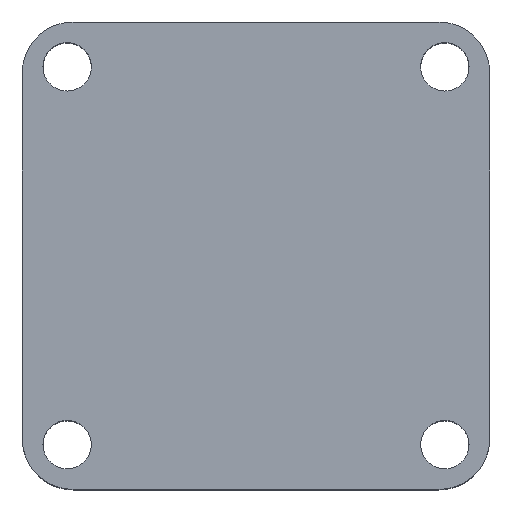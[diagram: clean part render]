
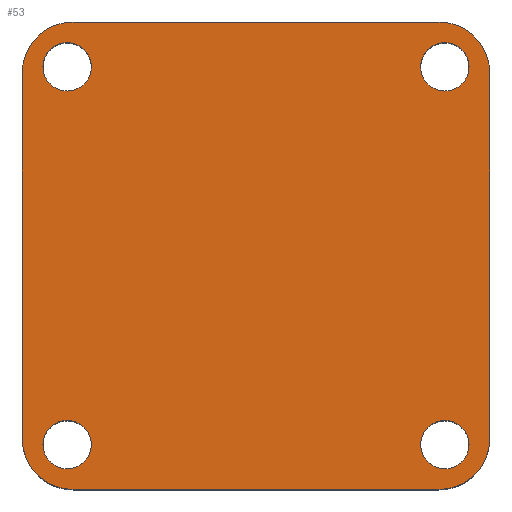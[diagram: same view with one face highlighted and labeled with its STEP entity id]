
A CAD part, top view. The second image highlights one B-rep face of the part: STEP entity #53.
In plain terms, the highlighted planar face has unit normal (0, 0, 1).
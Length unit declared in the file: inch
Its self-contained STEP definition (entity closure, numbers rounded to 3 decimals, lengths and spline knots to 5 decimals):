
#1 = CIRCLE ( 'NONE', #384, 0.16929 ) ;
#2 = CARTESIAN_POINT ( 'NONE',  ( 26.95554, 34.62944, 0. ) ) ;
#3 = AXIS2_PLACEMENT_3D ( 'NONE', #622, #211, #626 ) ;
#14 = CIRCLE ( 'NONE', #3, 0.08071 ) ;
#19 = LINE ( 'NONE', #348, #441 ) ;
#27 = ORIENTED_EDGE ( 'NONE', *, *, #254, .T. ) ;
#32 = EDGE_LOOP ( 'NONE', ( #565, #144 ) ) ;
#35 = DIRECTION ( 'NONE',  ( 0., 0., 1. ) ) ;
#41 = ORIENTED_EDGE ( 'NONE', *, *, #164, .F. ) ;
#45 = CARTESIAN_POINT ( 'NONE',  ( 27.12483, 0., 0. ) ) ;
#47 = CIRCLE ( 'NONE', #409, 0.08071 ) ;
#51 = EDGE_CURVE ( 'NONE', #186, #132, #250, .T. ) ;
#53 = ADVANCED_FACE ( 'NONE', ( #385, #380, #277, #184, #553 ), #77, .T. ) ;
#55 = VECTOR ( 'NONE', #551, 39.37008 ) ;
#64 = VERTEX_POINT ( 'NONE', #595 ) ;
#65 = DIRECTION ( 'NONE',  ( 1., 0., 0. ) ) ;
#72 = CARTESIAN_POINT ( 'NONE',  ( 0., 34.79873, 0. ) ) ;
#77 = PLANE ( 'NONE',  #288 ) ;
#82 = CARTESIAN_POINT ( 'NONE',  ( 0., 0., 0. ) ) ;
#86 = AXIS2_PLACEMENT_3D ( 'NONE', #531, #212, #314 ) ;
#88 = CARTESIAN_POINT ( 'NONE',  ( 27.12483, 33.40896, 0. ) ) ;
#91 = DIRECTION ( 'NONE',  ( 0., -1., 0. ) ) ;
#92 = EDGE_CURVE ( 'NONE', #450, #64, #320, .T. ) ;
#93 = EDGE_LOOP ( 'NONE', ( #499, #195 ) ) ;
#98 = CARTESIAN_POINT ( 'NONE',  ( 26.95554, 33.23967, 0. ) ) ;
#106 = DIRECTION ( 'NONE',  ( 0., 0., 1. ) ) ;
#117 = CARTESIAN_POINT ( 'NONE',  ( 25.71538, 34.64912, 0. ) ) ;
#132 = VERTEX_POINT ( 'NONE', #198 ) ;
#133 = DIRECTION ( 'NONE',  ( 1., 0., 0. ) ) ;
#137 = DIRECTION ( 'NONE',  ( 1., 0., 0. ) ) ;
#138 = CIRCLE ( 'NONE', #625, 0.16929 ) ;
#144 = ORIENTED_EDGE ( 'NONE', *, *, #494, .F. ) ;
#145 = EDGE_CURVE ( 'NONE', #147, #224, #502, .T. ) ;
#147 = VERTEX_POINT ( 'NONE', #98 ) ;
#148 = CARTESIAN_POINT ( 'NONE',  ( 25.71538, 34.64912, 0. ) ) ;
#150 = DIRECTION ( 'NONE',  ( 0., 0., 1. ) ) ;
#156 = EDGE_CURVE ( 'NONE', #668, #658, #138, .T. ) ;
#157 = AXIS2_PLACEMENT_3D ( 'NONE', #260, #466, #474 ) ;
#164 = EDGE_CURVE ( 'NONE', #64, #450, #520, .T. ) ;
#166 = CARTESIAN_POINT ( 'NONE',  ( 27.12483, 34.62944, 0. ) ) ;
#174 = DIRECTION ( 'NONE',  ( 0., 0., 1. ) ) ;
#182 = AXIS2_PLACEMENT_3D ( 'NONE', #309, #307, #421 ) ;
#184 = FACE_BOUND ( 'NONE', #32, .T. ) ;
#185 = CARTESIAN_POINT ( 'NONE',  ( 25.73507, 34.79873, 0. ) ) ;
#186 = VERTEX_POINT ( 'NONE', #456 ) ;
#188 = EDGE_LOOP ( 'NONE', ( #232, #234, #518, #495, #305, #346, #27, #251 ) ) ;
#190 = ORIENTED_EDGE ( 'NONE', *, *, #92, .F. ) ;
#193 = VERTEX_POINT ( 'NONE', #400 ) ;
#195 = ORIENTED_EDGE ( 'NONE', *, *, #418, .F. ) ;
#198 = CARTESIAN_POINT ( 'NONE',  ( 26.89452, 34.64912, 0. ) ) ;
#205 = AXIS2_PLACEMENT_3D ( 'NONE', #605, #150, #137 ) ;
#211 = DIRECTION ( 'NONE',  ( 0., 0., 1. ) ) ;
#212 = DIRECTION ( 'NONE',  ( 0., 0., 1. ) ) ;
#215 = DIRECTION ( 'NONE',  ( 0., 0., 1. ) ) ;
#216 = CARTESIAN_POINT ( 'NONE',  ( 25.63467, 33.38928, 0. ) ) ;
#224 = VERTEX_POINT ( 'NONE', #88 ) ;
#232 = ORIENTED_EDGE ( 'NONE', *, *, #613, .T. ) ;
#234 = ORIENTED_EDGE ( 'NONE', *, *, #145, .T. ) ;
#235 = CARTESIAN_POINT ( 'NONE',  ( 26.89452, 33.38928, 0. ) ) ;
#240 = LINE ( 'NONE', #72, #55 ) ;
#250 = CIRCLE ( 'NONE', #555, 0.08071 ) ;
#251 = ORIENTED_EDGE ( 'NONE', *, *, #351, .T. ) ;
#254 = EDGE_CURVE ( 'NONE', #658, #512, #19, .T. ) ;
#260 = CARTESIAN_POINT ( 'NONE',  ( 26.97522, 34.64912, 0. ) ) ;
#264 = LINE ( 'NONE', #45, #530 ) ;
#274 = CARTESIAN_POINT ( 'NONE',  ( 0., 33.23967, 0. ) ) ;
#277 = FACE_BOUND ( 'NONE', #328, .T. ) ;
#288 = AXIS2_PLACEMENT_3D ( 'NONE', #82, #599, #377 ) ;
#289 = AXIS2_PLACEMENT_3D ( 'NONE', #2, #215, #419 ) ;
#290 = DIRECTION ( 'NONE',  ( 0., 0., 1. ) ) ;
#291 = EDGE_LOOP ( 'NONE', ( #489, #451 ) ) ;
#305 = ORIENTED_EDGE ( 'NONE', *, *, #661, .T. ) ;
#307 = DIRECTION ( 'NONE',  ( 0., 0., 1. ) ) ;
#309 = CARTESIAN_POINT ( 'NONE',  ( 26.97522, 33.38928, 0. ) ) ;
#314 = DIRECTION ( 'NONE',  ( 1., 0., 0. ) ) ;
#320 = CIRCLE ( 'NONE', #408, 0.08071 ) ;
#326 = CARTESIAN_POINT ( 'NONE',  ( 25.71538, 33.38928, 0. ) ) ;
#328 = EDGE_LOOP ( 'NONE', ( #190, #41 ) ) ;
#341 = VERTEX_POINT ( 'NONE', #366 ) ;
#344 = CIRCLE ( 'NONE', #157, 0.08071 ) ;
#345 = DIRECTION ( 'NONE',  ( 1., 0., 0. ) ) ;
#346 = ORIENTED_EDGE ( 'NONE', *, *, #156, .T. ) ;
#348 = CARTESIAN_POINT ( 'NONE',  ( 25.56578, 0., 0. ) ) ;
#351 = EDGE_CURVE ( 'NONE', #512, #341, #1, .T. ) ;
#357 = DIRECTION ( 'NONE',  ( 0., 0., 1. ) ) ;
#363 = EDGE_CURVE ( 'NONE', #634, #448, #475, .T. ) ;
#366 = CARTESIAN_POINT ( 'NONE',  ( 25.73507, 33.23967, 0. ) ) ;
#368 = CARTESIAN_POINT ( 'NONE',  ( 25.56578, 33.40896, 0. ) ) ;
#377 = DIRECTION ( 'NONE',  ( 1., 0., 0. ) ) ;
#380 = FACE_BOUND ( 'NONE', #93, .T. ) ;
#384 = AXIS2_PLACEMENT_3D ( 'NONE', #463, #411, #528 ) ;
#385 = FACE_BOUND ( 'NONE', #291, .T. ) ;
#400 = CARTESIAN_POINT ( 'NONE',  ( 26.95554, 34.79873, 0. ) ) ;
#408 = AXIS2_PLACEMENT_3D ( 'NONE', #117, #290, #65 ) ;
#409 = AXIS2_PLACEMENT_3D ( 'NONE', #326, #106, #477 ) ;
#411 = DIRECTION ( 'NONE',  ( 0., 0., 1. ) ) ;
#412 = CARTESIAN_POINT ( 'NONE',  ( 25.79609, 34.64912, 0. ) ) ;
#415 = EDGE_CURVE ( 'NONE', #224, #508, #264, .T. ) ;
#418 = EDGE_CURVE ( 'NONE', #132, #186, #344, .T. ) ;
#419 = DIRECTION ( 'NONE',  ( 1., 0., 0. ) ) ;
#421 = DIRECTION ( 'NONE',  ( 1., 0., 0. ) ) ;
#422 = CARTESIAN_POINT ( 'NONE',  ( 27.05593, 33.38928, 0. ) ) ;
#425 = DIRECTION ( 'NONE',  ( 1., 0., 0. ) ) ;
#432 = EDGE_CURVE ( 'NONE', #604, #559, #14, .T. ) ;
#434 = LINE ( 'NONE', #274, #669 ) ;
#437 = EDGE_CURVE ( 'NONE', #508, #193, #514, .T. ) ;
#441 = VECTOR ( 'NONE', #91, 39.37008 ) ;
#448 = VERTEX_POINT ( 'NONE', #422 ) ;
#450 = VERTEX_POINT ( 'NONE', #412 ) ;
#451 = ORIENTED_EDGE ( 'NONE', *, *, #363, .F. ) ;
#456 = CARTESIAN_POINT ( 'NONE',  ( 27.05593, 34.64912, 0. ) ) ;
#463 = CARTESIAN_POINT ( 'NONE',  ( 25.73507, 33.40896, 0. ) ) ;
#464 = CIRCLE ( 'NONE', #86, 0.08071 ) ;
#466 = DIRECTION ( 'NONE',  ( 0., 0., 1. ) ) ;
#474 = DIRECTION ( 'NONE',  ( 1., 0., 0. ) ) ;
#475 = CIRCLE ( 'NONE', #182, 0.08071 ) ;
#477 = DIRECTION ( 'NONE',  ( 1., 0., 0. ) ) ;
#489 = ORIENTED_EDGE ( 'NONE', *, *, #569, .F. ) ;
#494 = EDGE_CURVE ( 'NONE', #559, #604, #47, .T. ) ;
#495 = ORIENTED_EDGE ( 'NONE', *, *, #437, .T. ) ;
#499 = ORIENTED_EDGE ( 'NONE', *, *, #51, .F. ) ;
#502 = CIRCLE ( 'NONE', #205, 0.16929 ) ;
#508 = VERTEX_POINT ( 'NONE', #166 ) ;
#512 = VERTEX_POINT ( 'NONE', #368 ) ;
#514 = CIRCLE ( 'NONE', #289, 0.16929 ) ;
#518 = ORIENTED_EDGE ( 'NONE', *, *, #415, .T. ) ;
#520 = CIRCLE ( 'NONE', #529, 0.08071 ) ;
#528 = DIRECTION ( 'NONE',  ( 1., 0., 0. ) ) ;
#529 = AXIS2_PLACEMENT_3D ( 'NONE', #148, #35, #564 ) ;
#530 = VECTOR ( 'NONE', #672, 39.37008 ) ;
#531 = CARTESIAN_POINT ( 'NONE',  ( 26.97522, 33.38928, 0. ) ) ;
#540 = CARTESIAN_POINT ( 'NONE',  ( 26.97522, 34.64912, 0. ) ) ;
#541 = CARTESIAN_POINT ( 'NONE',  ( 25.56578, 34.62944, 0. ) ) ;
#551 = DIRECTION ( 'NONE',  ( -1., 0., 0. ) ) ;
#553 = FACE_OUTER_BOUND ( 'NONE', #188, .T. ) ;
#555 = AXIS2_PLACEMENT_3D ( 'NONE', #540, #174, #425 ) ;
#559 = VERTEX_POINT ( 'NONE', #216 ) ;
#564 = DIRECTION ( 'NONE',  ( 1., 0., 0. ) ) ;
#565 = ORIENTED_EDGE ( 'NONE', *, *, #432, .F. ) ;
#568 = CARTESIAN_POINT ( 'NONE',  ( 25.73507, 34.62944, 0. ) ) ;
#569 = EDGE_CURVE ( 'NONE', #448, #634, #464, .T. ) ;
#595 = CARTESIAN_POINT ( 'NONE',  ( 25.63467, 34.64912, 0. ) ) ;
#597 = CARTESIAN_POINT ( 'NONE',  ( 25.79609, 33.38928, 0. ) ) ;
#599 = DIRECTION ( 'NONE',  ( 0., 0., 1. ) ) ;
#604 = VERTEX_POINT ( 'NONE', #597 ) ;
#605 = CARTESIAN_POINT ( 'NONE',  ( 26.95554, 33.40896, 0. ) ) ;
#613 = EDGE_CURVE ( 'NONE', #341, #147, #434, .T. ) ;
#622 = CARTESIAN_POINT ( 'NONE',  ( 25.71538, 33.38928, 0. ) ) ;
#625 = AXIS2_PLACEMENT_3D ( 'NONE', #568, #357, #345 ) ;
#626 = DIRECTION ( 'NONE',  ( 1., 0., 0. ) ) ;
#634 = VERTEX_POINT ( 'NONE', #235 ) ;
#658 = VERTEX_POINT ( 'NONE', #541 ) ;
#661 = EDGE_CURVE ( 'NONE', #193, #668, #240, .T. ) ;
#668 = VERTEX_POINT ( 'NONE', #185 ) ;
#669 = VECTOR ( 'NONE', #133, 39.37008 ) ;
#672 = DIRECTION ( 'NONE',  ( 0., 1., 0. ) ) ;
